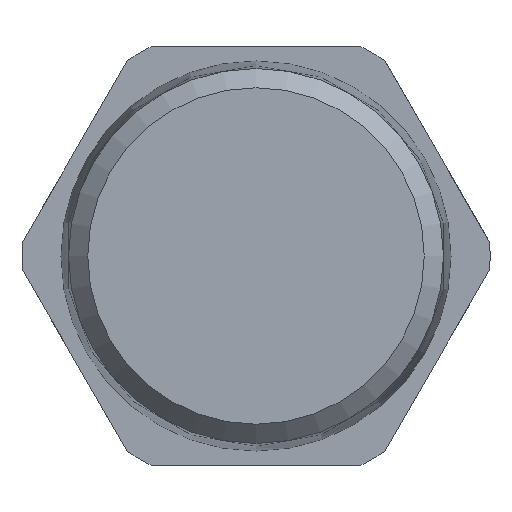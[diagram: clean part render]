
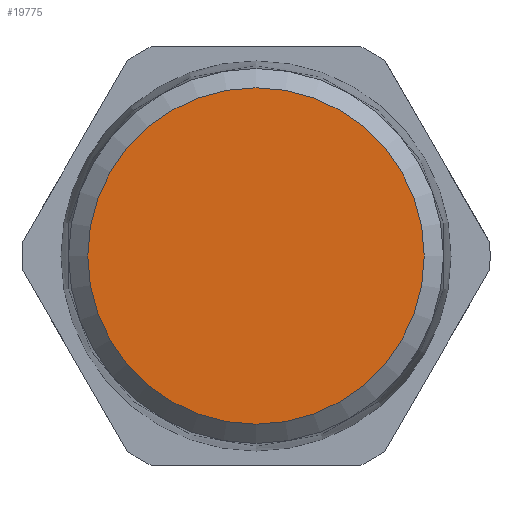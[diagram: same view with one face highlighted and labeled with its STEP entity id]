
A CAD part, front view. The second image highlights one B-rep face of the part: STEP entity #19775.
In plain terms, the highlighted planar face has unit normal (0, -1, 0).
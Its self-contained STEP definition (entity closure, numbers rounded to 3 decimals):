
#6284=PLANE('',#19972);
#6503=FACE_OUTER_BOUND('',#6655,.T.);
#6655=EDGE_LOOP('',(#13587));
#6813=CIRCLE('',#19973,11.5);
#7031=VERTEX_POINT('',#24330);
#10231=EDGE_CURVE('',#7031,#7031,#6813,.T.);
#13587=ORIENTED_EDGE('',*,*,#10231,.T.);
#19775=ADVANCED_FACE('',(#6503),#6284,.T.);
#19972=AXIS2_PLACEMENT_3D('',#24329,#20459,#20460);
#19973=AXIS2_PLACEMENT_3D('',#24331,#20461,#20462);
#20459=DIRECTION('center_axis',(0.,-1.,0.));
#20460=DIRECTION('ref_axis',(0.,0.,-1.));
#20461=DIRECTION('center_axis',(0.,-1.,0.));
#20462=DIRECTION('ref_axis',(0.,0.,1.));
#24329=CARTESIAN_POINT('Origin',(0.,-18.,11.637));
#24330=CARTESIAN_POINT('',(0.,-18.,11.5));
#24331=CARTESIAN_POINT('Origin',(0.,-18.,0.));
